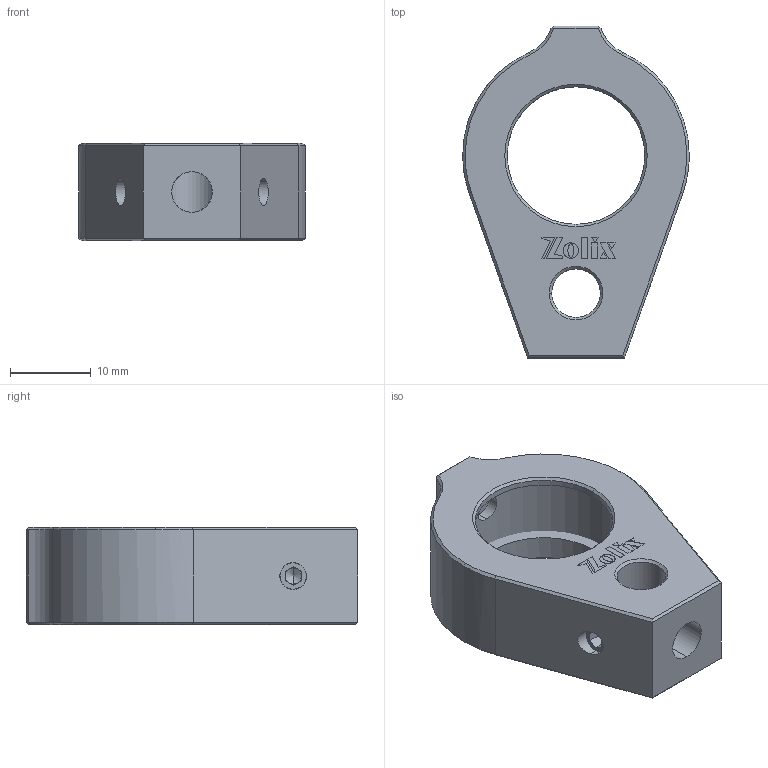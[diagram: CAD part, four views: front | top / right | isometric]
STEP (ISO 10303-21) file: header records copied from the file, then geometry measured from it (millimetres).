
FILE_DESCRIPTION (( 'STEP AP214' ), '1' );
FILE_NAME ('NLB20-B.step', '2019-05-10T01:43:51', ( '' ), ( '' ), 'SwSTEP 2.0', 'SolidWorks 2016', '' );
FILE_SCHEMA (( 'AUTOMOTIVE_DESIGN' ));
Length unit declared in the file: millimetre
Products named in the file (1): NLB20-B
Bounding box: 28 x 41 x 12 mm (x, y, z)
Volume: 6295 mm3; surface area: 4456.8 mm2
Topology: 8 solids, 8 shells, 300 faces, 770 edges, 491 vertices
Faces by surface type: plane 224, cone 41, cylinder 35
Entity records: 12555 total; most frequent: CARTESIAN_POINT 1824, ORIENTED_EDGE 1528, DIRECTION 1468, EDGE_CURVE 764, VECTOR 614, LINE 614, VERTEX_POINT 491, AXIS2_PLACEMENT_3D 427
